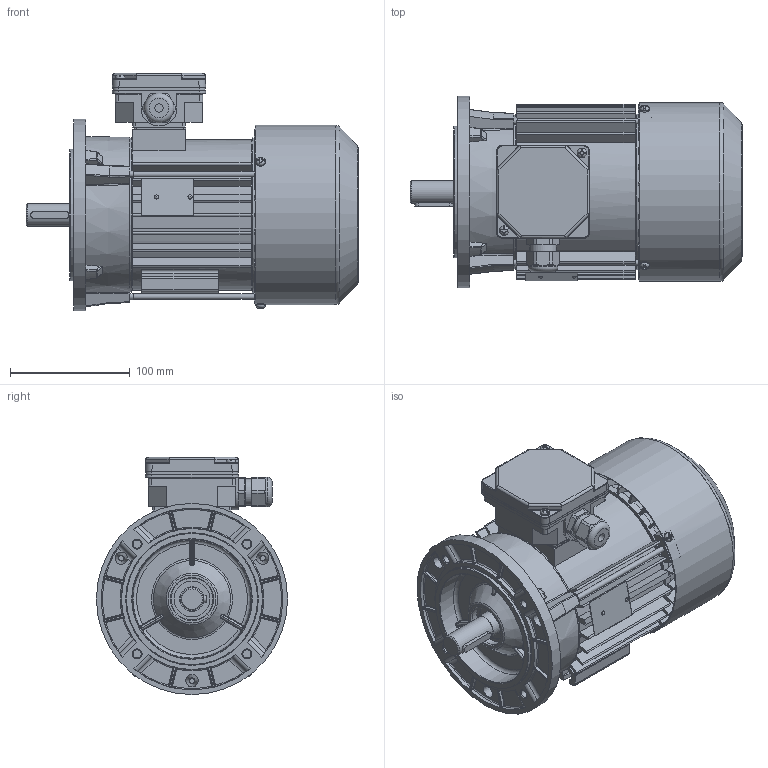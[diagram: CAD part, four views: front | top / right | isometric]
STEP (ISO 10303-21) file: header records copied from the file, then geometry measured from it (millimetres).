
FILE_DESCRIPTION(/* description */ ('Unknown'),/* implementation_level */ '2;1');
FILE_NAME(/* name */ 'SKh80-2B1',/* time_stamp */ '2019-02-13T11:35:40+01:00',/* author */ ('Klaudiusz Szlosek'),/* organization */ ('BESEL S.A.'),/* preprocessor_version */ 'ST-DEVELOPER v16.7',/* originating_system */ 'DEX',/* authorisation */ $);
FILE_SCHEMA (('AUTOMOTIVE_DESIGN {1 0 10303 214 3 1 1}'));
Products named in the file (1): Czêœæ5
Bounding box: 277.78 x 160 x 198.5 mm (x, y, z)
Volume: 880886.2 mm3; surface area: 501451.8 mm2
Topology: 3 solids, 3 shells, 2819 faces, 7721 edges, 4962 vertices
Faces by surface type: plane 1236, cylinder 806, bspline 358, torus 224, cone 167, sphere 28
Full cylindrical faces by diameter (mm): 2 x2, 2.4 x2, 3.7 x8, 4 x4, 4.2 x3, 4.5 x1, 4.6 x3, 4.8 x2, 5 x5, 5.5 x3, 6.8 x4, 7 x1, 8 x9, 18.998 x1, 19.298 x1, 19.498 x1, 19.898 x1, 20.298 x2, 20.398 x2, 20.4 x2, 22.3 x1, 25 x1, 25.497 x1, 25.997 x2, 26.097 x1, 26.997 x1, 28.799 x4, 30 x1, 34 x1, 35 x1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
Entity records: 115581 total; most frequent: CARTESIAN_POINT 28341, ORIENTED_EDGE 14738, DIRECTION 13180, EDGE_CURVE 7369, AXIS2_PLACEMENT_3D 4931, VERTEX_POINT 4830, LINE 3318, VECTOR 3318
